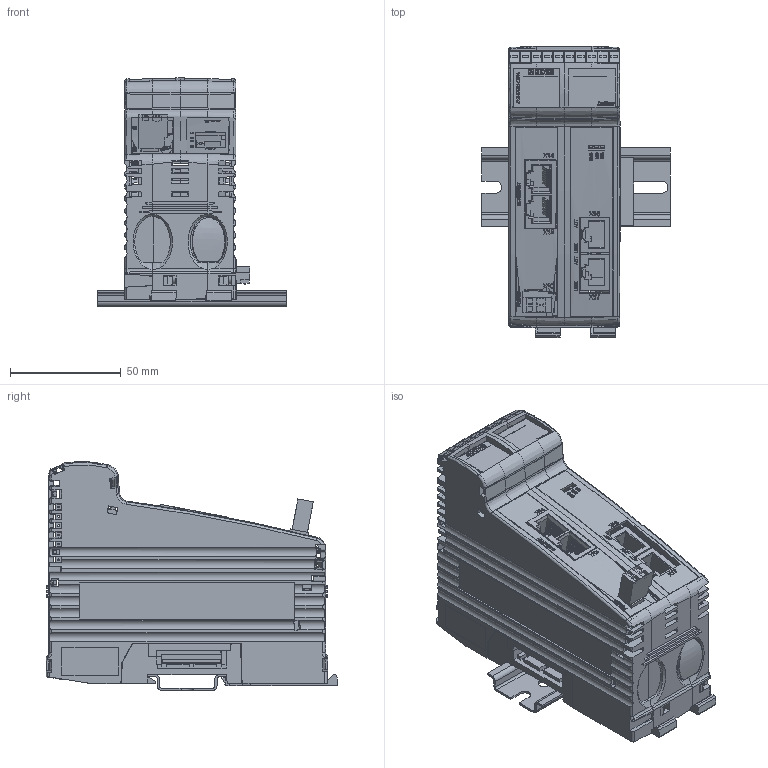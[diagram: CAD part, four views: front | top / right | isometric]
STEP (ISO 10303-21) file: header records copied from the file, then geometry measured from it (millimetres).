
FILE_DESCRIPTION(/* description */ ('FG'),/* implementation_level */ '2;1');
FILE_NAME(/* name */ 'FG_JX3-COM-EIPA_001_00',/* time_stamp */ '2016-06-24T15:25:14+02:00',/* author */ ('T. Busch'),/* organization */ ('Jetter AG'),/* preprocessor_version */ 'ST-DEVELOPER v16.7',/* originating_system */ 'DEX',/* authorisation */ $);
FILE_SCHEMA (('AUTOMOTIVE_DESIGN {1 0 10303 214 3 1 1}'));
Products named in the file (26): FG_JX3-COM-EIPA_001_00; GE_JX3-COM-EIPA_001_00; Sw-LI_JX3_001_00; PCBY_JX3-BN-SW_009_02; PCB_JX3-BN-SW_009_02; BU_RJ45_LED_GRGE_2X; ST_02_E_WI_RM3_5_A; PCBY_COMX100CA-RE_EIS; BU_RJ45_WI_SMD; LED_3Lane_Lightpipe; BL_JX3-COM_041_00; Sw-RE_JX3_001_00; BL_JX3-COM-EIPA_035_01; BL_JXX_001_1; FO_JX3-COM-EIPA_001_00; FO_JX3-Signalweiss_001_00; BOY_JX3-BP_A1_002_01; PCBY_JX3-BP-BN50_001_00; PCB_JX3-BP-BN50_001_00; ST_10_E_WI_RM2_54; BO_JX3_001_01; DE_JX3_001_00; BO_JX3_002_01; Bc_Weidmüller_001; Tragschiene_35_5x7_1x1; BLZF_3_5_2_SN_SW_1690420000
Assembly tree (36 placements, depth 4):
  FG_JX3-COM-EIPA_001_00
    GE_JX3-COM-EIPA_001_00
      Sw-LI_JX3_001_00
      PCBY_JX3-BN-SW_009_02
        PCB_JX3-BN-SW_009_02
        BU_RJ45_LED_GRGE_2X
        ST_02_E_WI_RM3_5_A
      PCBY_COMX100CA-RE_EIS
        BU_RJ45_WI_SMD  x2
        LED_3Lane_Lightpipe
      BL_JX3-COM_041_00
      Sw-RE_JX3_001_00
      BL_JX3-COM-EIPA_035_01
      BL_JXX_001_1
      FO_JX3-COM-EIPA_001_00
      FO_JX3-Signalweiss_001_00
    BOY_JX3-BP_A1_002_01
      PCBY_JX3-BP-BN50_001_00
        PCB_JX3-BP-BN50_001_00
        ST_10_E_WI_RM2_54
      BO_JX3_001_01
      DE_JX3_001_00  x2
      BO_JX3_002_01
    Bc_Weidmüller_001  x10
    Tragschiene_35_5x7_1x1
    BLZF_3_5_2_SN_SW_1690420000
Bounding box: 85 x 131.39 x 103.16 mm (x, y, z)
Volume: 139123.3 mm3; surface area: 174538.2 mm2
Topology: 37 solids, 42 shells, 7081 faces, 19522 edges, 12569 vertices
Faces by surface type: plane 4972, cylinder 1262, bspline 383, cone 317, sphere 120, torus 26, extrusion 1
Full cylindrical faces by diameter (mm): 0.2 x64, 0.25 x17, 0.3 x168, 0.4 x108, 0.5 x20, 0.8 x20, 0.9 x24, 1 x3, 1.2 x1, 1.5 x2, 1.8 x5, 1.95 x3, 2.2 x3, 2.5 x1, 3.25 x4, 3.3 x2, 3.4 x2
Entity records: 227713 total; most frequent: CARTESIAN_POINT 59016, ORIENTED_EDGE 32706, DIRECTION 29678, EDGE_CURVE 16353, VECTOR 12316, LINE 12315, VERTEX_POINT 11043, AXIS2_PLACEMENT_3D 8681
